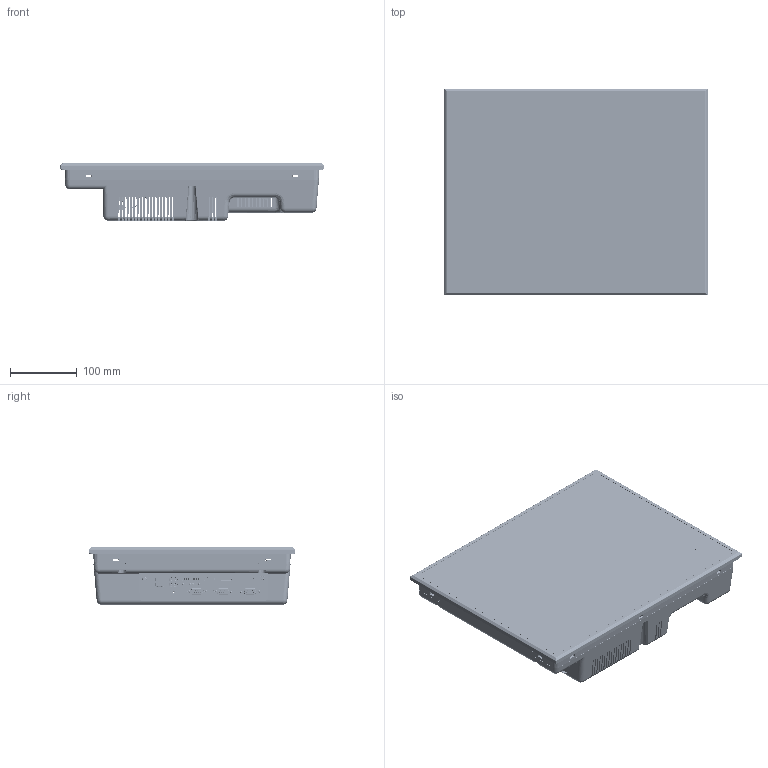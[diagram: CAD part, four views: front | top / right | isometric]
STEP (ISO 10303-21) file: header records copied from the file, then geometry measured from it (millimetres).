
FILE_DESCRIPTION (( 'STEP AP214' ), '1' );
FILE_NAME ('CM-iNP515 Assy.STEP', '2025-02-24T03:50:05', ( '' ), ( '' ), 'SwSTEP 2.0', 'SolidWorks 2024', '' );
FILE_SCHEMA (( 'AUTOMOTIVE_DESIGN' ));
Length unit declared in the file: millimetre
Products named in the file (10): Main board_BTC40026_J6412T-IM-A; PSU_BXP03019_CM-PC441NF, 100~240V, 12V, 6A; Bottom Case_BTC40088_A_A; Asssy 485_BNT21056_RS422,485_v0.5; Connector_Dsub 9P_연장선; Front Bezel_BTC40085_A; IO Bracket_NT15_ASUS J6412T-IM-A; CM-iNP515 Assy; Frame Rubber_BTC09020_NT15; Main Plate_BTC30470_AL15_A_OCA 0.188
Assembly tree (11 placements, depth 2):
  CM-iNP515 Assy
    Front Bezel_BTC40085_A
    Frame Rubber_BTC09020_NT15
    Main Plate_BTC30470_AL15_A_OCA 0.188
    IO Bracket_NT15_ASUS J6412T-IM-A
    Bottom Case_BTC40088_A_A
    Connector_Dsub 9P_연장선  x3
    Asssy 485_BNT21056_RS422,485_v0.5
    PSU_BXP03019_CM-PC441NF, 100~240V, 12V, 6A
    Main board_BTC40026_J6412T-IM-A
Bounding box: 395 x 310 x 85.8 mm (x, y, z)
Volume: 844644.8 mm3; surface area: 940330.6 mm2
Topology: 24 solids, 110 shells, 17238 faces, 47428 edges, 30453 vertices
Faces by surface type: plane 10612, cylinder 5260, bspline 636, sphere 297, cone 245, torus 188
Entity records: 722963 total; most frequent: CARTESIAN_POINT 149012, ORIENTED_EDGE 92772, DIRECTION 77688, EDGE_CURVE 46490, VERTEX_POINT 29895, VECTOR 27984, LINE 27984, AXIS2_PLACEMENT_3D 24852
